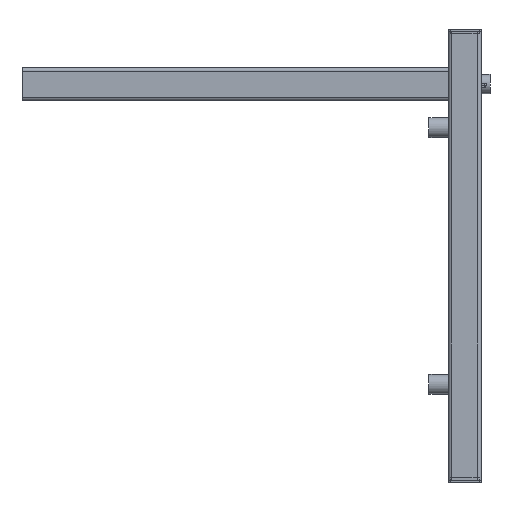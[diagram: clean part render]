
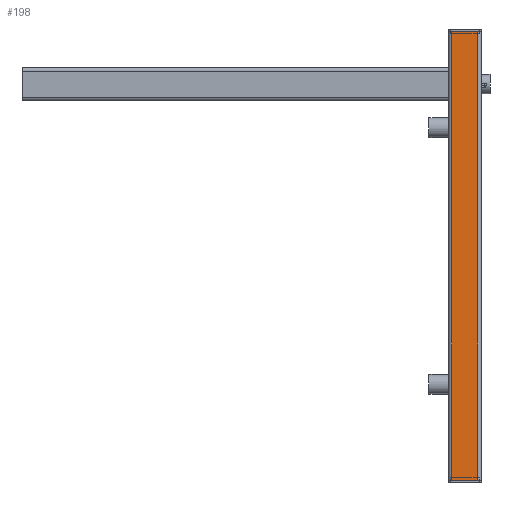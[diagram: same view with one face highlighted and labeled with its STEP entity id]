
A CAD part, left-side view. The second image highlights one B-rep face of the part: STEP entity #198.
In plain terms, the highlighted planar face has unit normal (-1, 0, 0) as drawn and (0, 0, -1) by its records, which use the part's own axes.
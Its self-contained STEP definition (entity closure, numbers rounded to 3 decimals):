
#198 = ADVANCED_FACE( '', ( #486 ), #487, .T. );
#486 = FACE_OUTER_BOUND( '', #916, .T. );
#487 = PLANE( '', #917 );
#916 = EDGE_LOOP( '', ( #1401, #1402, #1403, #1404 ) );
#917 = AXIS2_PLACEMENT_3D( '', #1405, #1406, #1407 );
#1401 = ORIENTED_EDGE( '', *, *, #2450, .F. );
#1402 = ORIENTED_EDGE( '', *, *, #2451, .T. );
#1403 = ORIENTED_EDGE( '', *, *, #2452, .T. );
#1404 = ORIENTED_EDGE( '', *, *, #2453, .T. );
#1405 = CARTESIAN_POINT( '', ( -15., 411., -15. ) );
#1406 = DIRECTION( '', ( 0., 0., -1. ) );
#1407 = DIRECTION( '', ( -1., 0., 0. ) );
#2450 = EDGE_CURVE( '', #2916, #2917, #2918, .T. );
#2451 = EDGE_CURVE( '', #2916, #2919, #2920, .F. );
#2452 = EDGE_CURVE( '', #2919, #2921, #2922, .T. );
#2453 = EDGE_CURVE( '', #2921, #2917, #2923, .T. );
#2916 = VERTEX_POINT( '', #3584 );
#2917 = VERTEX_POINT( '', #3585 );
#2918 = LINE( '', #3586, #3587 );
#2919 = VERTEX_POINT( '', #3588 );
#2920 = LINE( '', #3589, #3590 );
#2921 = VERTEX_POINT( '', #3591 );
#2922 = LINE( '', #3592, #3593 );
#2923 = LINE( '', #3594, #3595 );
#3584 = CARTESIAN_POINT( '', ( -12., 0., -15. ) );
#3585 = CARTESIAN_POINT( '', ( 12., 0., -15. ) );
#3586 = CARTESIAN_POINT( '', ( -15., 0., -15. ) );
#3587 = VECTOR( '', #4360, 1000. );
#3588 = CARTESIAN_POINT( '', ( -12., 411., -15. ) );
#3589 = CARTESIAN_POINT( '', ( -12., 411., -15. ) );
#3590 = VECTOR( '', #4361, 1000. );
#3591 = CARTESIAN_POINT( '', ( 12., 411., -15. ) );
#3592 = CARTESIAN_POINT( '', ( -15., 411., -15. ) );
#3593 = VECTOR( '', #4362, 1000. );
#3594 = CARTESIAN_POINT( '', ( 12., 411., -15. ) );
#3595 = VECTOR( '', #4363, 1000. );
#4360 = DIRECTION( '', ( 1., 0., 0. ) );
#4361 = DIRECTION( '', ( 0., -1., 0. ) );
#4362 = DIRECTION( '', ( 1., 0., 0. ) );
#4363 = DIRECTION( '', ( 0., -1., 0. ) );
